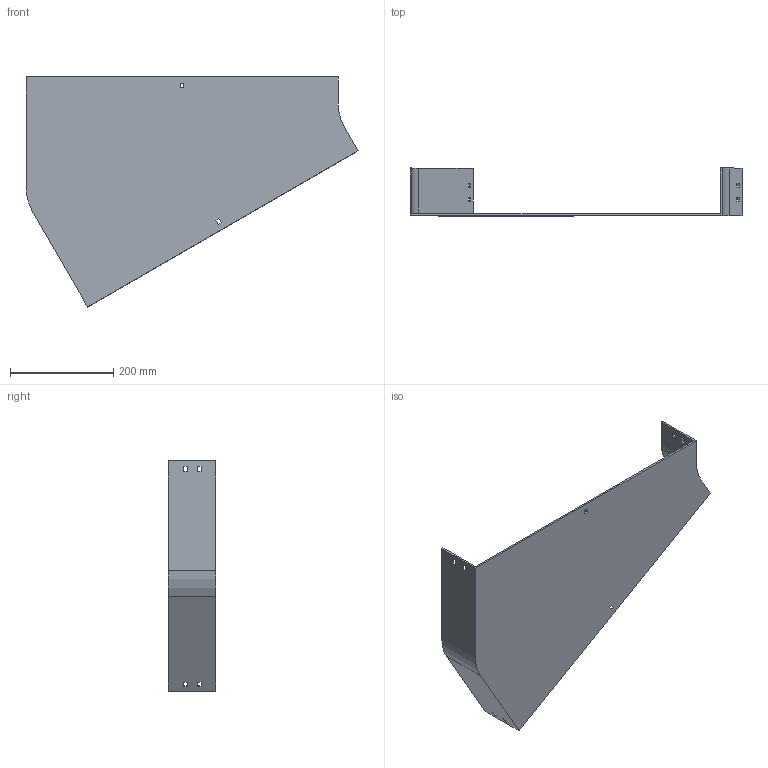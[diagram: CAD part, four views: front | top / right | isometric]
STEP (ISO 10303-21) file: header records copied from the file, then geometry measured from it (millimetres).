
FILE_DESCRIPTION (( 'STEP AP214' ), '1' );
FILE_NAME ('12B1I600.step', '2025-02-21T09:36:28', ( '' ), ( '' ), 'SwSTEP 2.0', 'SolidWorks 2023', '' );
FILE_SCHEMA (( 'AUTOMOTIVE_DESIGN' ));
Length unit declared in the file: millimetre
Products named in the file (1): 12B1I600
Bounding box: 642.4 x 92.5 x 445.3 mm (x, y, z)
Volume: 860199.3 mm3; surface area: 500384.9 mm2
Topology: 1 solids, 1 shells, 58 faces, 168 edges, 112 vertices
Faces by surface type: plane 54, cylinder 4
Entity records: 1943 total; most frequent: CARTESIAN_POINT 339, ORIENTED_EDGE 336, DIRECTION 294, EDGE_CURVE 168, VECTOR 160, LINE 160, VERTEX_POINT 112, EDGE_LOOP 78
